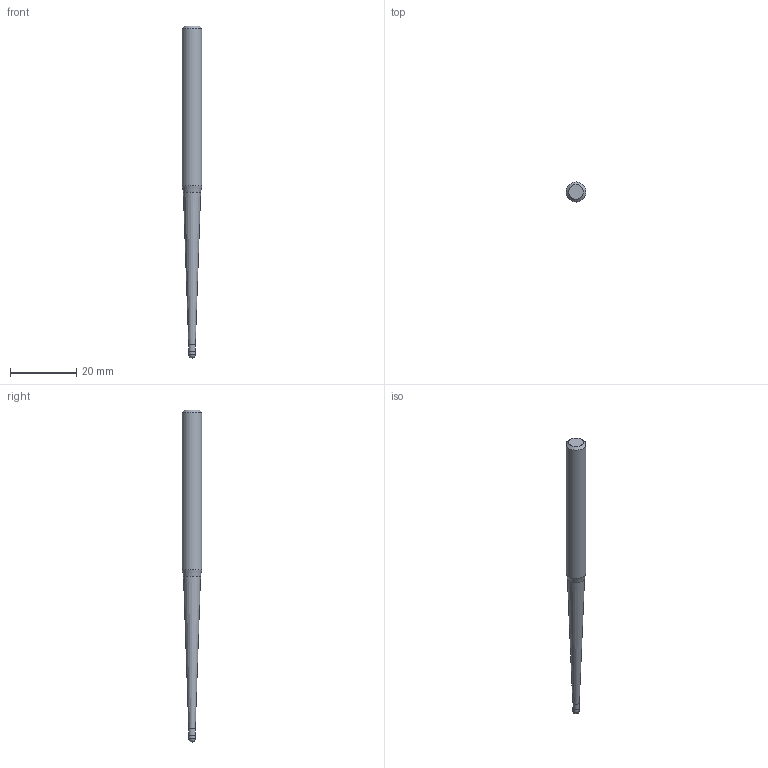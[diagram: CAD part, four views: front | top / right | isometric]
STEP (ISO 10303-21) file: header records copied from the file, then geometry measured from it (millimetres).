
FILE_DESCRIPTION((''),'2;1');
FILE_NAME('C:\Users\nsx150\AppData\Local\Temp\Mastercam 2021\SNAKH10GOD\TEMP.step','2021-10-21T13:33:16',(''),(''),'STEP Write','Mastercam 2021 ... CNC Software, Inc.','');
FILE_SCHEMA(('AUTOMOTIVE_DESIGN'));
Length unit declared in the file: millimetre
Products named in the file (1): None
Bounding box: 6 x 6 x 100 mm (x, y, z)
Volume: 1911.9 mm3; surface area: 1511 mm2
Topology: 2 solids, 2 shells, 10 faces, 16 edges, 9 vertices
Faces by surface type: plane 3, cylinder 3, cone 3, sphere 1
Full cylindrical faces by diameter (mm): 1.985 x1, 2 x1, 6 x1
Entity records: 232 total; most frequent: DIRECTION 40, CARTESIAN_POINT 28, AXIS2_PLACEMENT_3D 20, ORIENTED_EDGE 16, EDGE_LOOP 16, STYLED_ITEM 13, ADVANCED_FACE 10, FACE_BOUND 9
